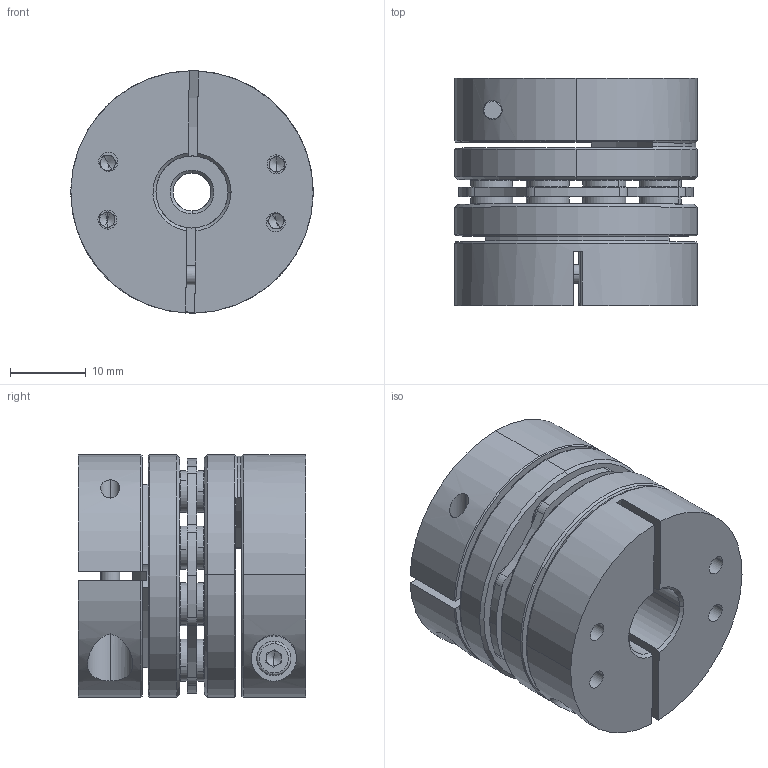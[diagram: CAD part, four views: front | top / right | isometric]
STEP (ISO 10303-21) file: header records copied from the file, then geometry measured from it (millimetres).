
FILE_DESCRIPTION (( 'STEP AP203' ), '1' );
FILE_NAME ('LDG-32-B1-5-9.525.STEP', '2021-10-28T05:02:58', ( '' ), ( '' ), 'SwSTEP 2.0', 'SolidWorks 2018', '' );
FILE_SCHEMA (( 'CONFIG_CONTROL_DESIGN' ));
Length unit declared in the file: millimetre
Products named in the file (2): 錨璃5^LDG-32蚾饜芞1; LDG-32-B1-5-9.525
Assembly tree (1 placements, depth 2):
  LDG-32-B1-5-9.525
    錨璃5^LDG-32蚾饜芞1
Bounding box: 32 x 30 x 32 mm (x, y, z)
Volume: 18647.2 mm3; surface area: 13340.2 mm2
Topology: 1 solids, 11 shells, 795 faces, 1967 edges, 1216 vertices
Faces by surface type: cylinder 301, plane 244, cone 230, torus 20
Entity records: 24193 total; most frequent: CARTESIAN_POINT 4474, DIRECTION 4465, ORIENTED_EDGE 3878, EDGE_CURVE 1939, AXIS2_PLACEMENT_3D 1819, VERTEX_POINT 1216, CIRCLE 1020, EDGE_LOOP 939
